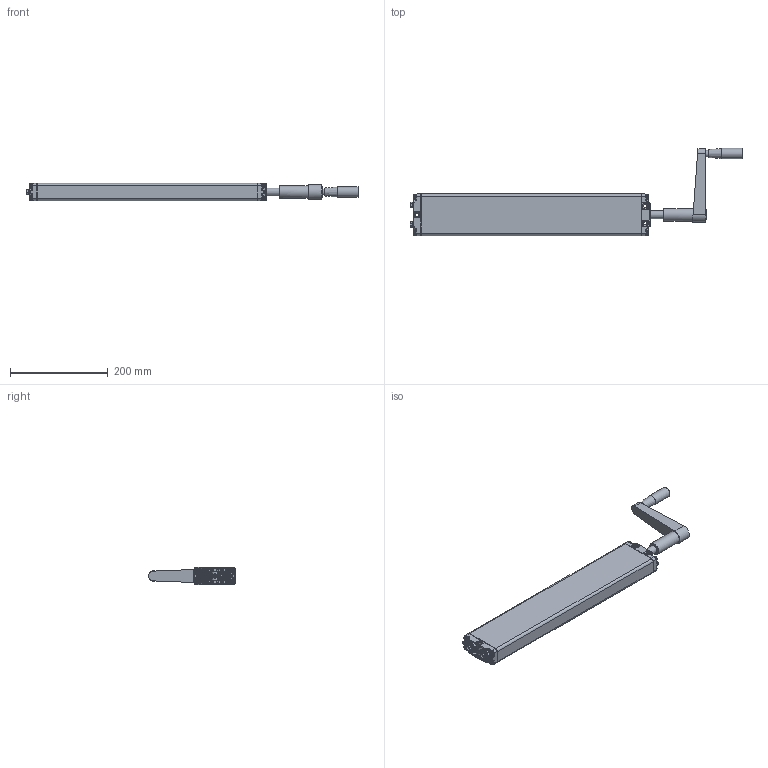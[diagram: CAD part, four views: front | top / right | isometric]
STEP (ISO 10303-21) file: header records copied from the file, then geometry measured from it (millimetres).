
FILE_DESCRIPTION(/* description */ ('Unknown'),/* implementation_level */ '2;1');
FILE_NAME(/* name */ '310.20054 Pumpe PA 2640 W mit Handkurbel',/* time_stamp */ '2016-08-10T16:34:00+02:00',/* author */ ('Unknown'),/* organization */ ('Unknown'),/* preprocessor_version */ 'ST-DEVELOPER v16.7',/* originating_system */ 'DEX',/* authorisation */ $);
FILE_SCHEMA (('AUTOMOTIVE_DESIGN {1 0 10303 214 3 1 1}'));
Products named in the file (20): 100.20054; 115.00042; 125.00046; 142.00021; 125.00021; 115.00003; 113.00005; 128.00001; 125.00052; 126.00013; 125.00053; 127.00014; Handgriff; 142.00013; 125.00143; 122.00040; 126.00002; 119.00023; 126.00001; 142.00057
Assembly tree (27 placements, depth 3):
  100.20054
    115.00042  x2
      125.00046
      142.00021
      125.00021
      115.00003
    113.00005
      128.00001
      125.00052
      126.00013
      125.00053
      127.00014
      Handgriff
    142.00013  x8
    125.00143
    122.00040
    126.00002
    119.00023
    126.00001
    142.00057
Bounding box: 677.72 x 178 x 35 mm (x, y, z)
Volume: 604930.2 mm3; surface area: 315676.5 mm2
Topology: 26 solids, 26 shells, 1987 faces, 4571 edges, 2601 vertices
Faces by surface type: plane 606, bspline 480, cylinder 457, cone 294, torus 104, sphere 46
Full cylindrical faces by diameter (mm): 3.5 x2, 4 x2, 4.1 x2, 4.2 x3, 4.917 x2, 5 x8, 6.917 x4, 8 x6, 9.8 x8, 10 x4, 10.4 x1, 12.8 x1, 13 x1, 14 x1, 16 x2, 17 x1, 17.3 x2, 18 x1, 19 x1, 20.6 x1, 21 x1, 22 x1, 22.4 x2, 25.5 x1, 25.9 x4
Entity records: 68415 total; most frequent: CARTESIAN_POINT 39240, ORIENTED_EDGE 6038, DIRECTION 5009, EDGE_CURVE 3019, AXIS2_PLACEMENT_3D 2050, VERTEX_POINT 1852, FACE_BOUND 1587, EDGE_LOOP 1584
